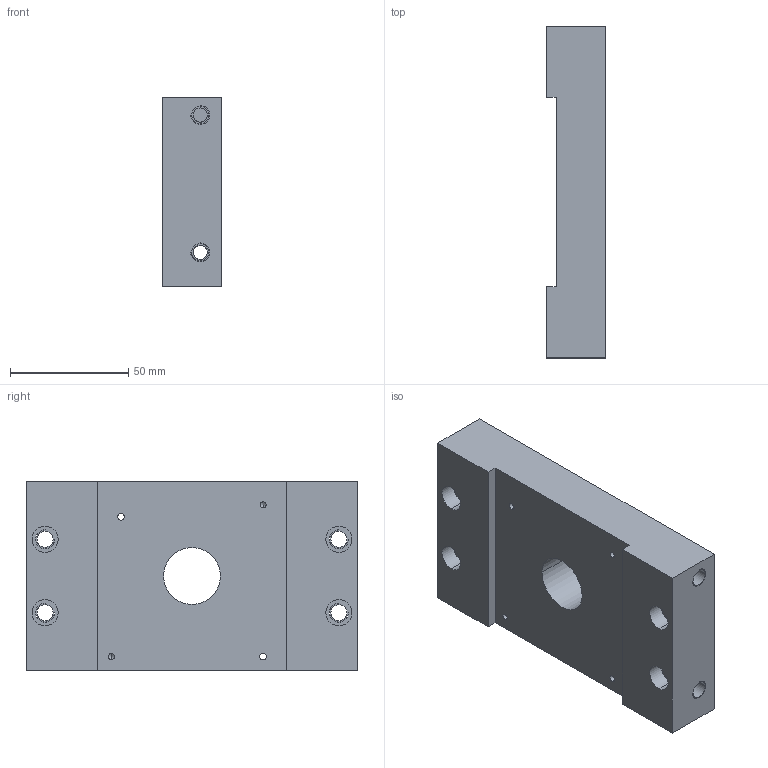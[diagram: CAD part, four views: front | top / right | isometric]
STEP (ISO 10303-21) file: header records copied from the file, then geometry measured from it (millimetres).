
FILE_DESCRIPTION (( 'STEP AP203' ), '1' );
FILE_NAME ('006 Plaque empreinte partie fixe.STEP', '2021-10-27T18:20:05', ( '' ), ( '' ), 'SwSTEP 2.0', 'SolidWorks 2019', '' );
FILE_SCHEMA (( 'CONFIG_CONTROL_DESIGN' ));
Length unit declared in the file: millimetre
Products named in the file (1): 006 Plaque empreinte partie fixe
Bounding box: 25 x 140 x 80 mm (x, y, z)
Volume: 225184.3 mm3; surface area: 48539.4 mm2
Topology: 1 solids, 1 shells, 164 faces, 418 edges, 268 vertices
Faces by surface type: cylinder 106, plane 52, cone 6
Entity records: 5101 total; most frequent: CARTESIAN_POINT 911, DIRECTION 902, ORIENTED_EDGE 828, EDGE_CURVE 414, AXIS2_PLACEMENT_3D 351, VERTEX_POINT 268, EDGE_LOOP 216, LINE 200
